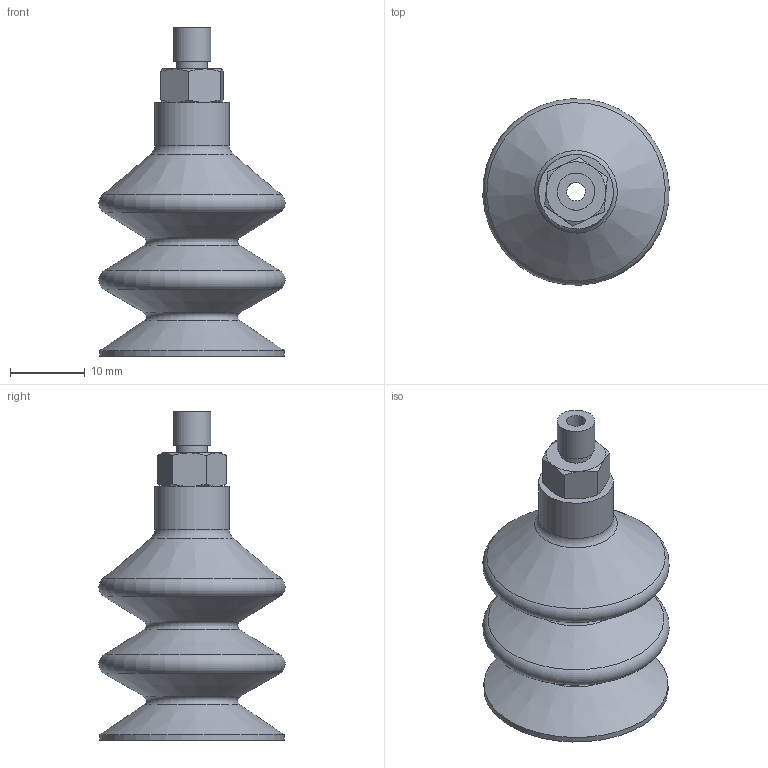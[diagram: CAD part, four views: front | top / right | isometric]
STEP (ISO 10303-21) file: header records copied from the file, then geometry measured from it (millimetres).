
FILE_DESCRIPTION(('STEP AP214'),'1');
FILE_NAME('KIT.08.33.D25.4.stp','2019-04-29T08:47:05',(' '),(' '),'Spatial InterOp 3D',' ',' ');
FILE_SCHEMA(('AUTOMOTIVE_DESIGN { 1 0 10303 214 1 1 1 1 }'));
Length unit declared in the file: millimetre
Products named in the file (3): KIT.08.33.D25.4; CA.08.09.004 ; CA.08.33.D25
Assembly tree (2 placements, depth 2):
  KIT.08.33.D25.4
    CA.08.09.004 
    CA.08.33.D25
Bounding box: 24.97 x 24.97 x 44 mm (x, y, z)
Volume: 8415.3 mm3; surface area: 4452.2 mm2
Topology: 2 solids, 2 shells, 49 faces, 97 edges, 58 vertices
Faces by surface type: cone 19, plane 16, cylinder 9, torus 5
Full cylindrical faces by diameter (mm): 2.5 x1, 4 x1, 4.1 x1, 4.5 x2, 5 x2, 10 x1, 24.7 x1
Entity records: 1608 total; most frequent: CARTESIAN_POINT 258, DIRECTION 194, ORIENTED_EDGE 144, AXIS2_PLACEMENT_3D 94, EDGE_LOOP 80, EDGE_CURVE 72, FACE_OUTER_BOUND 63, VERTEX_POINT 54
